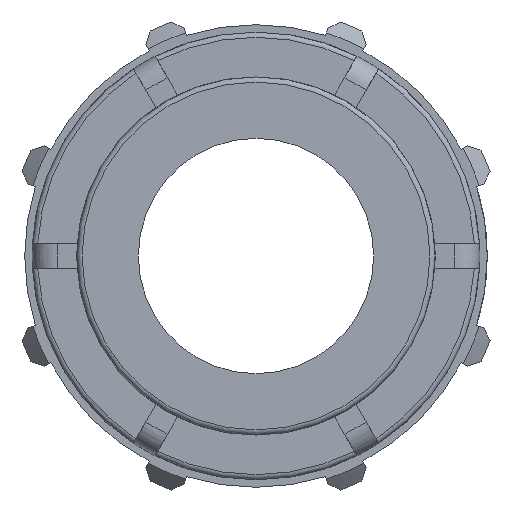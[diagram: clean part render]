
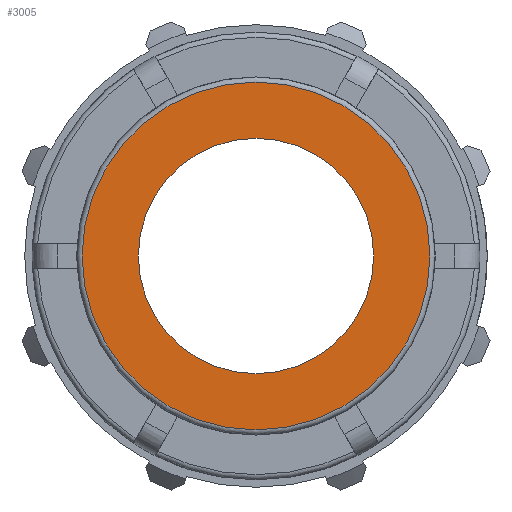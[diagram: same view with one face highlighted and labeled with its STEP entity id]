
A CAD part, left-side view. The second image highlights one B-rep face of the part: STEP entity #3005.
In plain terms, the highlighted planar face has unit normal (-1, 0, 0).
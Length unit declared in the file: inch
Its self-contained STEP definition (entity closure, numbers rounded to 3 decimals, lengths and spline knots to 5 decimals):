
#73=FACE_BOUND('',#858,.T.);
#586=PLANE('',#3254);
#696=FACE_OUTER_BOUND('',#857,.T.);
#857=EDGE_LOOP('',(#2253,#2254));
#858=EDGE_LOOP('',(#2255,#2256));
#1024=CIRCLE('',#3251,0.88098);
#1025=CIRCLE('',#3252,0.88098);
#1027=CIRCLE('',#3255,0.59628);
#1028=CIRCLE('',#3256,0.59628);
#1281=VERTEX_POINT('',#4981);
#1282=VERTEX_POINT('',#4983);
#1283=VERTEX_POINT('',#4988);
#1284=VERTEX_POINT('',#4989);
#1641=EDGE_CURVE('',#1281,#1282,#1024,.T.);
#1642=EDGE_CURVE('',#1282,#1281,#1025,.T.);
#1644=EDGE_CURVE('',#1283,#1284,#1027,.T.);
#1645=EDGE_CURVE('',#1284,#1283,#1028,.T.);
#2253=ORIENTED_EDGE('',*,*,#1642,.F.);
#2254=ORIENTED_EDGE('',*,*,#1641,.F.);
#2255=ORIENTED_EDGE('',*,*,#1644,.T.);
#2256=ORIENTED_EDGE('',*,*,#1645,.T.);
#3005=ADVANCED_FACE('',(#696,#73),#586,.T.);
#3251=AXIS2_PLACEMENT_3D('',#4984,#3792,#3793);
#3252=AXIS2_PLACEMENT_3D('',#4985,#3794,#3795);
#3254=AXIS2_PLACEMENT_3D('',#4987,#3798,#3799);
#3255=AXIS2_PLACEMENT_3D('',#4990,#3800,#3801);
#3256=AXIS2_PLACEMENT_3D('',#4991,#3802,#3803);
#3792=DIRECTION('center_axis',(1.,0.,0.));
#3793=DIRECTION('ref_axis',(0.,-1.,0.));
#3794=DIRECTION('center_axis',(1.,0.,0.));
#3795=DIRECTION('ref_axis',(0.,-1.,0.));
#3798=DIRECTION('center_axis',(-1.,0.,0.));
#3799=DIRECTION('ref_axis',(0.,0.,1.));
#3800=DIRECTION('center_axis',(1.,0.,0.));
#3801=DIRECTION('ref_axis',(0.,0.,-1.));
#3802=DIRECTION('center_axis',(1.,0.,0.));
#3803=DIRECTION('ref_axis',(0.,0.,-1.));
#4981=CARTESIAN_POINT('',(0.,0.,0.88098));
#4983=CARTESIAN_POINT('',(0.,0.88098,0.));
#4984=CARTESIAN_POINT('Origin',(0.,0.,0.));
#4985=CARTESIAN_POINT('Origin',(0.,0.,0.));
#4987=CARTESIAN_POINT('Origin',(0.,0.9072,0.));
#4988=CARTESIAN_POINT('',(0.,0.59628,0.));
#4989=CARTESIAN_POINT('',(0.,-0.59628,0.));
#4990=CARTESIAN_POINT('Origin',(0.,0.,0.));
#4991=CARTESIAN_POINT('Origin',(0.,0.,0.));
